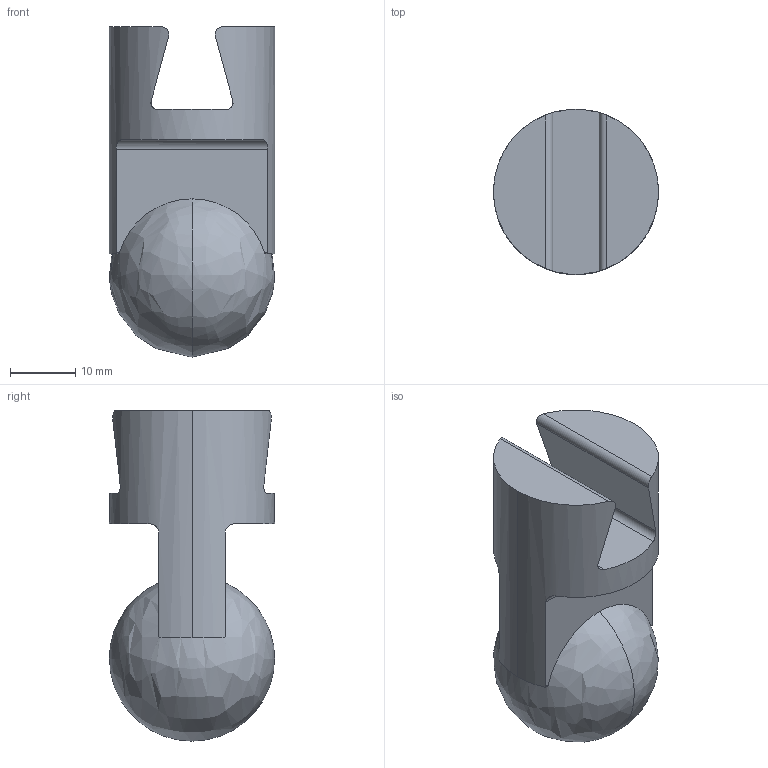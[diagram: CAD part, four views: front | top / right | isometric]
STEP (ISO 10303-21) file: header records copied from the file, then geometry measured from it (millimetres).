
FILE_DESCRIPTION (( 'STEP AP203' ), '1' );
FILE_NAME ('ALA25_25MM ADAPTOR_BALL.STEP', '2020-12-17T21:05:55', ( '' ), ( '' ), 'SwSTEP 2.0', 'SolidWorks 2020', '' );
FILE_SCHEMA (( 'CONFIG_CONTROL_DESIGN' ));
Length unit declared in the file: inch
Products named in the file (1): ALA25_25MM ADAPTOR_BALL
Bounding box: 25.4 x 25.4 x 50.8 mm (x, y, z)
Volume: 17070.4 mm3; surface area: 5158.3 mm2
Topology: 1 solids, 1 shells, 25 faces, 75 edges, 48 vertices
Faces by surface type: cylinder 12, plane 11, bspline 2
Entity records: 1099 total; most frequent: CARTESIAN_POINT 409, ORIENTED_EDGE 142, DIRECTION 112, EDGE_CURVE 71, VERTEX_POINT 48, AXIS2_PLACEMENT_3D 43, VECTOR 26, LINE 26
